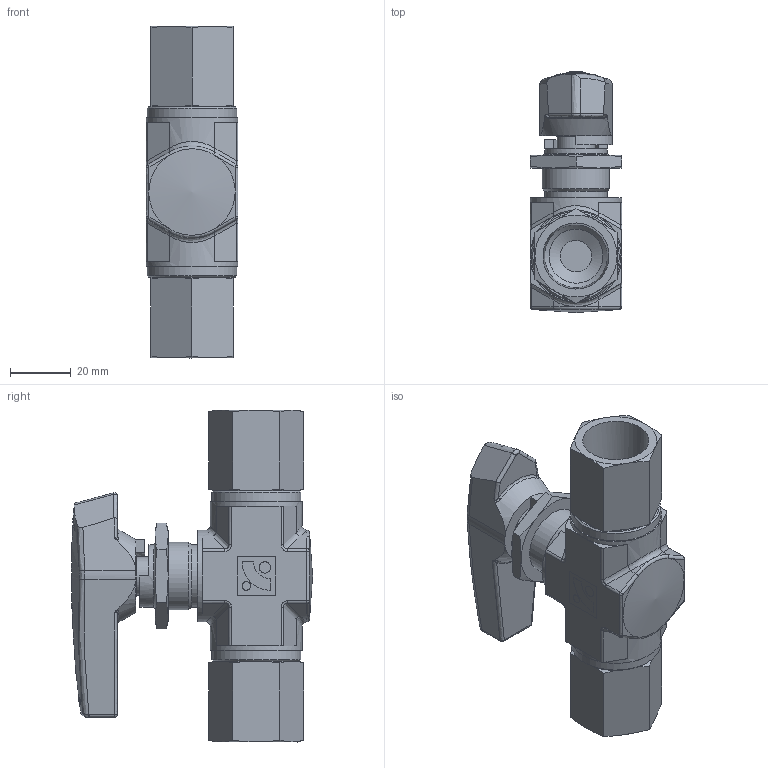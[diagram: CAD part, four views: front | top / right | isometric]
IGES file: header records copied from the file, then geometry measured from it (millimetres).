
Global section: file name: SBVF3603-F8N; native system: Autodesk Inventor 2016; preprocessor: unknown; author: DESIGNPC2; date: 20160610.190758; units: millimetre
Bounding box: 30.2 x 79.3 x 109.2 mm (x, y, z)
Volume: 94824.4 mm3; surface area: 28299.7 mm2
Topology: 6 solids, 6 shells, 498 faces, 1266 edges, 808 vertices
Faces by surface type: bspline 498
